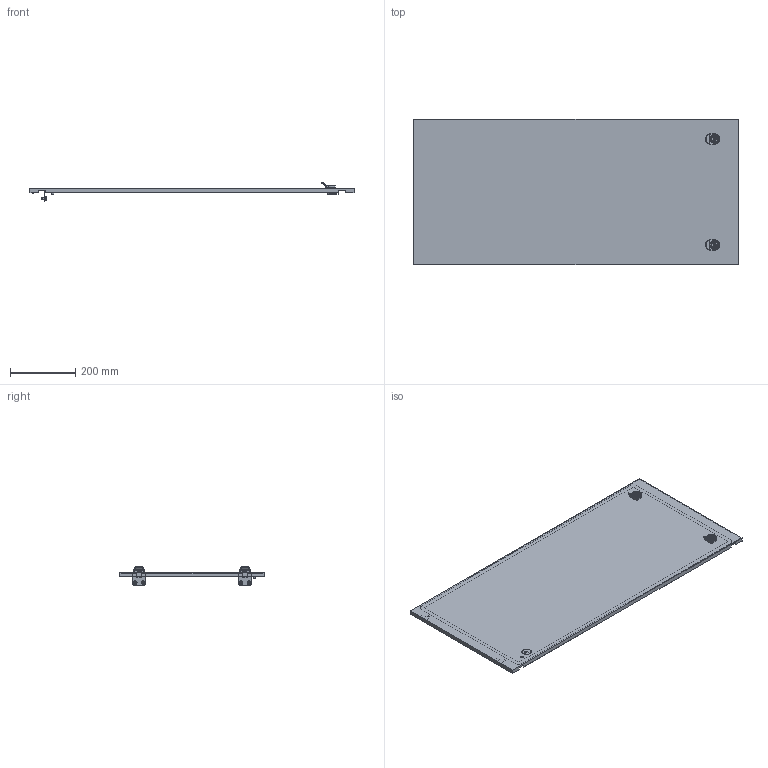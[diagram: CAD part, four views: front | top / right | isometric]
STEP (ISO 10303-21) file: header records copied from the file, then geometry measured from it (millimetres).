
FILE_DESCRIPTION (( 'STEP AP214' ), '1' );
FILE_NAME ('FO-00-ESD-045-100 Äâåðü ñåêöèîííàÿ âíåøíÿÿ 450õ1000 ìì.STEP', '2025-08-20T06:11:25', ( '' ), ( '' ), 'SwSTEP 2.0', 'SolidWorks 2023', '' );
FILE_SCHEMA (( 'AUTOMOTIVE_DESIGN' ));
Length unit declared in the file: millimetre
Products named in the file (4): Дверь секционная внешняя 450х1000 мм.STEP; FO-00-ESD-045-100 Дверь секционная внешняя 450х1000 мм; Петля.STEP; FO-00-ESD-045-100 Дверь секционная внешняя 450х1000 мм.STEP
Assembly tree (4 placements, depth 3):
  FO-00-ESD-045-100 Дверь секционная внешняя 450х1000 мм
    FO-00-ESD-045-100 Дверь секционная внешняя 450х1000 мм.STEP
      Дверь секционная внешняя 450х1000 мм.STEP
      Петля.STEP  x2
Bounding box: 995 x 446 x 57.25 mm (x, y, z)
Volume: 1094540.2 mm3; surface area: 994737.7 mm2
Topology: 3 solids, 12 shells, 703 faces, 1803 edges, 1166 vertices
Faces by surface type: plane 343, cylinder 268, torus 34, bspline 30, cone 28
Entity records: 20618 total; most frequent: CARTESIAN_POINT 5770, ORIENTED_EDGE 3096, DIRECTION 3062, EDGE_CURVE 1548, AXIS2_PLACEMENT_3D 1050, VERTEX_POINT 1004, LINE 962, VECTOR 962
